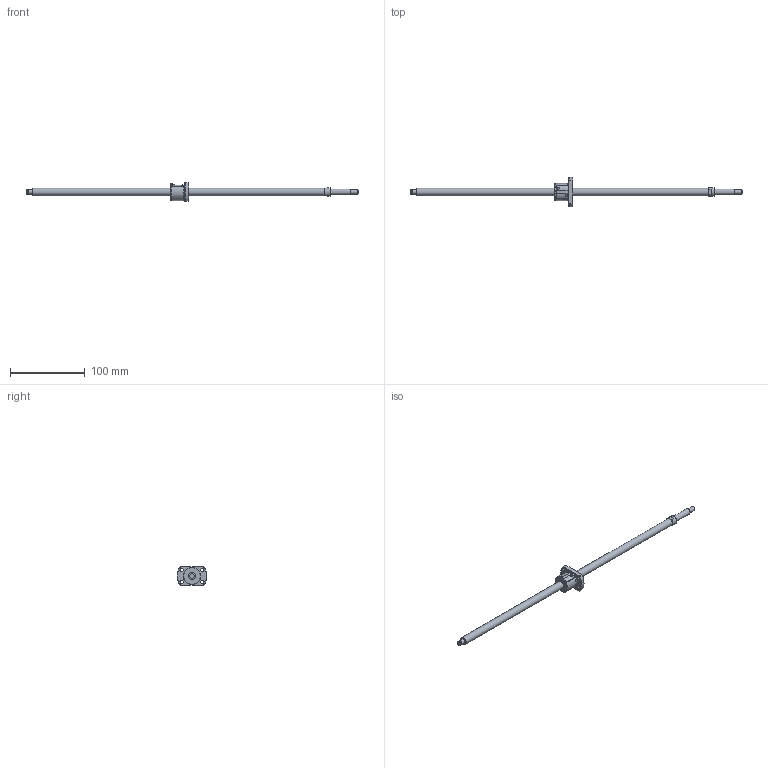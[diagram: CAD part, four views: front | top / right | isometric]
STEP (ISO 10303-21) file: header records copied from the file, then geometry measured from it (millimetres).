
FILE_DESCRIPTION(/* description */ ('STEP AP214'),/* implementation_level */ '2;1');
FILE_NAME(/* name */ 'SRT1002-387R445C7B0X(185Processing)',/* time_stamp */ '2026-08-05T22:54:57+02:00',/* author */ ('License CC BY-ND 4.0'),/* organization */ ('CADENAS'),/* preprocessor_version */ 'ST-DEVELOPER v20',/* originating_system */ 'PARTsolutions',/* authorisation */ ' ');
FILE_SCHEMA (('AUTOMOTIVE_DESIGN {1 0 10303 214 3 1 1}'));
Length unit declared in the file: millimetre
Products named in the file (3): SRT1002-387R445C7B0X(185Processing); SRT1002-387R470BCt7Processing58Shaft; SRT1002Nut
Assembly tree (2 placements, depth 2):
  SRT1002-387R445C7B0X(185Processing)
    SRT1002-387R470BCt7Processing58Shaft
    SRT1002Nut
Bounding box: 445 x 40 x 25 mm (x, y, z)
Volume: 43214.2 mm3; surface area: 18393.9 mm2
Topology: 2 solids, 2 shells, 67 faces, 161 edges, 106 vertices
Faces by surface type: plane 34, cylinder 20, cone 12, torus 1
Full cylindrical faces by diameter (mm): 1.4 x2, 4.5 x4, 5.7 x1, 6 x3, 8 x1, 10 x2, 11.5 x1, 22.5 x1, 23 x1
Entity records: 1851 total; most frequent: CARTESIAN_POINT 354, DIRECTION 308, ORIENTED_EDGE 246, AXIS2_PLACEMENT_3D 133, EDGE_CURVE 123, EDGE_LOOP 110, FACE_BOUND 110, VERTEX_POINT 93
